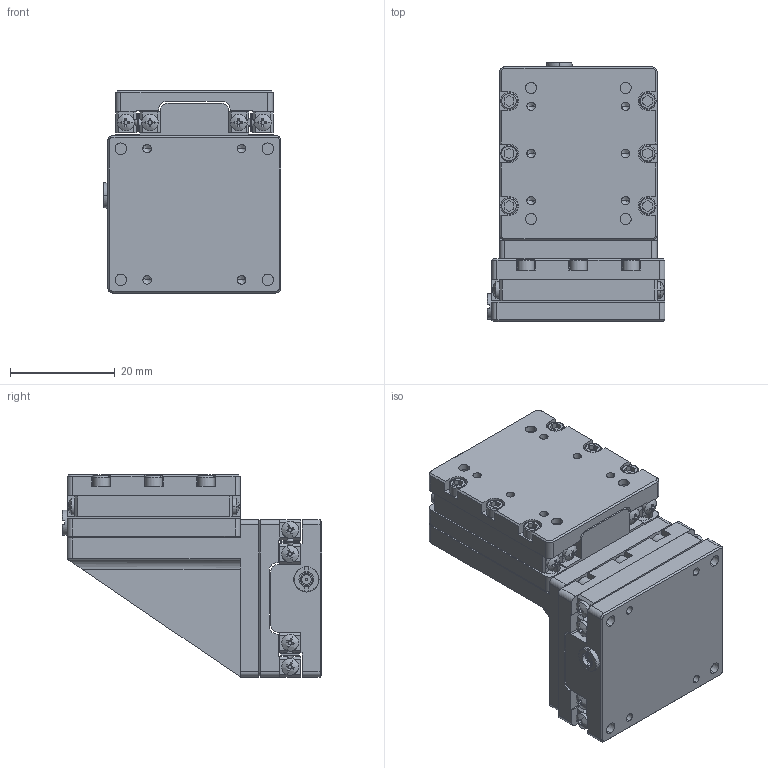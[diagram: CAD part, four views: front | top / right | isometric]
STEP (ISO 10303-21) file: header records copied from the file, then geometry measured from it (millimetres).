
FILE_DESCRIPTION (( 'STEP AP214' ), '1' );
FILE_NAME ('N56.XZ10K-B1开环二维直线压电马达3D图（25.08.01）.STEP', '2025-08-04T05:20:52', ( '微软用户' ), ( '微软中国' ), 'SwSTEP 2.0', 'SolidWorks 2016', '' );
FILE_SCHEMA (( 'AUTOMOTIVE_DESIGN' ));
Length unit declared in the file: millimetre
Products named in the file (1): N56.XZ10K-B1开环二维直线压电马达3D图（25.08.01）
Bounding box: 33.9 x 49.4 x 38.5 mm (x, y, z)
Volume: 25617.2 mm3; surface area: 26231.2 mm2
Topology: 87 solids, 87 shells, 2081 faces, 5225 edges, 3358 vertices
Faces by surface type: plane 1081, cylinder 754, cone 166, bspline 80
Entity records: 86956 total; most frequent: CARTESIAN_POINT 13213, DIRECTION 10513, ORIENTED_EDGE 10210, EDGE_CURVE 5105, AXIS2_PLACEMENT_3D 3842, VERTEX_POINT 3358, LINE 2829, VECTOR 2829
